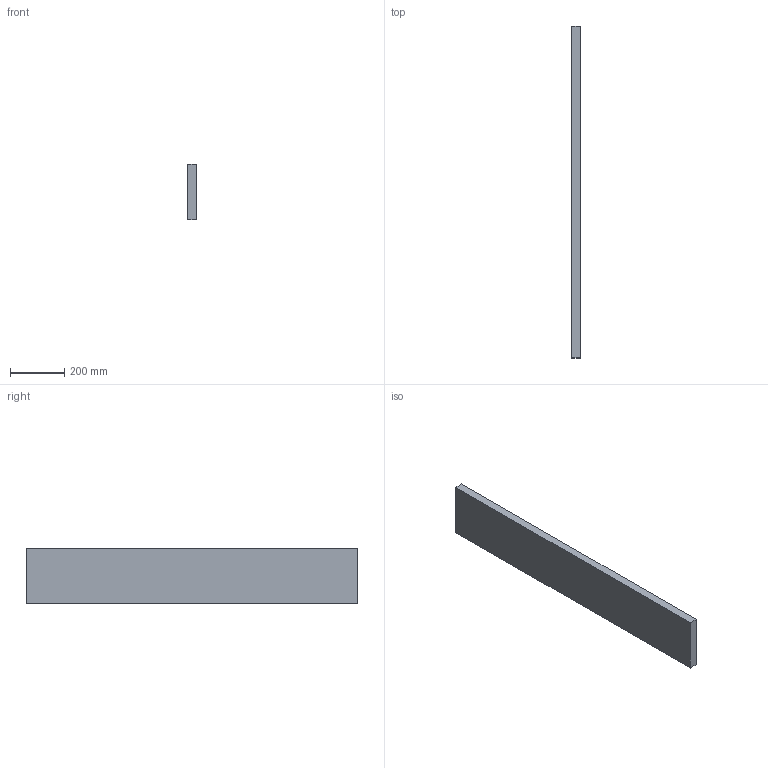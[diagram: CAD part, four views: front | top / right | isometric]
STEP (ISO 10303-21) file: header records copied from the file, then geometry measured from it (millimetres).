
FILE_DESCRIPTION(/* description */ (''),/* implementation_level */ '2;1');
FILE_NAME(/* name */ 'SM_Baffle1.2x8x48',/* time_stamp */ '2024-10-15T11:56:36-05:00',/* author */ (''),/* organization */ (''),/* preprocessor_version */ 'ST-DEVELOPER v19.2',/* originating_system */ 'Rhino 8.4',/* authorisation */ '');
FILE_SCHEMA (('CONFIG_CONTROL_DESIGN'));
Length unit declared in the file: inch
Products named in the file (1): Document
Bounding box: 30.48 x 1219.2 x 203.2 mm (x, y, z)
Volume: 7551159.1 mm3; surface area: 582192.4 mm2
Topology: 1 solids, 1 shells, 6 faces, 12 edges, 8 vertices
Faces by surface type: plane 6
Entity records: 226 total; most frequent: CARTESIAN_POINT 40, ORIENTED_EDGE 24, EDGE_CURVE 12, B_SPLINE_CURVE_WITH_KNOTS 12, DIRECTION 10, VERTEX_POINT 8, AXIS2_PLACEMENT_3D 8, ORGANIZATION 7
